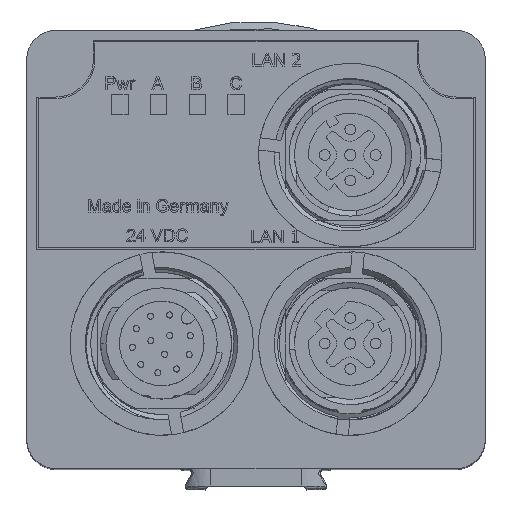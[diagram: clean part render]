
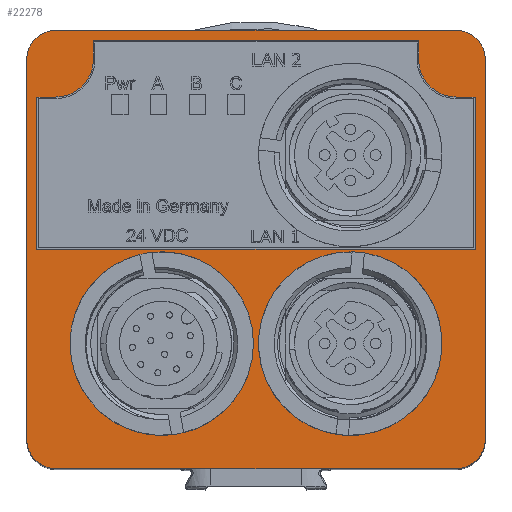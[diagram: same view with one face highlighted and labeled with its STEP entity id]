
A CAD part, top view. The second image highlights one B-rep face of the part: STEP entity #22278.
In plain terms, the highlighted planar face has unit normal (0, 0, 1).
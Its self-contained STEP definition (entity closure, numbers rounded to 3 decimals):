
#257=FACE_BOUND('',#6556,.T.);
#258=FACE_BOUND('',#6557,.T.);
#259=FACE_BOUND('',#6558,.T.);
#950=LINE('',#36806,#2822);
#1064=LINE('',#38646,#2936);
#1078=LINE('',#38712,#2950);
#1083=LINE('',#38873,#2955);
#1084=LINE('',#38878,#2956);
#1085=LINE('',#38883,#2957);
#1086=LINE('',#38885,#2958);
#1087=LINE('',#38889,#2959);
#1088=LINE('',#38891,#2960);
#1089=LINE('',#38893,#2961);
#1090=LINE('',#38897,#2962);
#1091=LINE('',#38898,#2963);
#2822=VECTOR('',#25256,10.);
#2936=VECTOR('',#25502,10.);
#2950=VECTOR('',#25526,10.);
#2955=VECTOR('',#25541,10.);
#2956=VECTOR('',#25546,10.);
#2957=VECTOR('',#25551,10.);
#2958=VECTOR('',#25552,10.);
#2959=VECTOR('',#25555,10.);
#2960=VECTOR('',#25556,10.);
#2961=VECTOR('',#25557,10.);
#2962=VECTOR('',#25560,10.);
#2963=VECTOR('',#25561,10.);
#4549=PLANE('',#23573);
#5349=FACE_OUTER_BOUND('',#6555,.T.);
#6555=EDGE_LOOP('',(#15864,#15865,#15866,#15867,#15868,#15869,#15870,#15871));
#6556=EDGE_LOOP('',(#15872));
#6557=EDGE_LOOP('',(#15873));
#6558=EDGE_LOOP('',(#15874,#15875,#15876,#15877,#15878,#15879,#15880,#15881,
#15882,#15883));
#7745=CIRCLE('',#23509,9.);
#7772=CIRCLE('',#23574,2.85);
#7773=CIRCLE('',#23575,2.85);
#7774=CIRCLE('',#23576,2.85);
#7775=CIRCLE('',#23577,2.85);
#7776=CIRCLE('',#23578,9.);
#7777=CIRCLE('',#23579,3.7);
#7778=CIRCLE('',#23580,3.7);
#9418=VERTEX_POINT('',#36803);
#9419=VERTEX_POINT('',#36805);
#9436=VERTEX_POINT('',#37058);
#9597=VERTEX_POINT('',#38643);
#9598=VERTEX_POINT('',#38645);
#9612=VERTEX_POINT('',#38710);
#9613=VERTEX_POINT('',#38711);
#9624=VERTEX_POINT('',#38870);
#9625=VERTEX_POINT('',#38872);
#9626=VERTEX_POINT('',#38875);
#9627=VERTEX_POINT('',#38877);
#9628=VERTEX_POINT('',#38880);
#9629=VERTEX_POINT('',#38882);
#9630=VERTEX_POINT('',#38884);
#9631=VERTEX_POINT('',#38886);
#9632=VERTEX_POINT('',#38888);
#9633=VERTEX_POINT('',#38890);
#9634=VERTEX_POINT('',#38892);
#9635=VERTEX_POINT('',#38894);
#9636=VERTEX_POINT('',#38896);
#11760=EDGE_CURVE('',#9419,#9418,#950,.T.);
#11788=EDGE_CURVE('',#9436,#9436,#7745,.T.);
#11994=EDGE_CURVE('',#9598,#9597,#1064,.T.);
#12013=EDGE_CURVE('',#9612,#9613,#1078,.T.);
#12030=EDGE_CURVE('',#9597,#9624,#7772,.T.);
#12031=EDGE_CURVE('',#9624,#9625,#1083,.T.);
#12032=EDGE_CURVE('',#9625,#9419,#7773,.T.);
#12033=EDGE_CURVE('',#9418,#9626,#7774,.T.);
#12034=EDGE_CURVE('',#9626,#9627,#1084,.T.);
#12035=EDGE_CURVE('',#9627,#9598,#7775,.T.);
#12036=EDGE_CURVE('',#9628,#9628,#7776,.T.);
#12037=EDGE_CURVE('',#9613,#9629,#1085,.T.);
#12038=EDGE_CURVE('',#9629,#9630,#1086,.T.);
#12039=EDGE_CURVE('',#9630,#9631,#7777,.T.);
#12040=EDGE_CURVE('',#9631,#9632,#1087,.T.);
#12041=EDGE_CURVE('',#9632,#9633,#1088,.T.);
#12042=EDGE_CURVE('',#9633,#9634,#1089,.T.);
#12043=EDGE_CURVE('',#9634,#9635,#7778,.T.);
#12044=EDGE_CURVE('',#9635,#9636,#1090,.T.);
#12045=EDGE_CURVE('',#9636,#9612,#1091,.T.);
#15864=ORIENTED_EDGE('',*,*,#11994,.T.);
#15865=ORIENTED_EDGE('',*,*,#12030,.T.);
#15866=ORIENTED_EDGE('',*,*,#12031,.T.);
#15867=ORIENTED_EDGE('',*,*,#12032,.T.);
#15868=ORIENTED_EDGE('',*,*,#11760,.T.);
#15869=ORIENTED_EDGE('',*,*,#12033,.T.);
#15870=ORIENTED_EDGE('',*,*,#12034,.T.);
#15871=ORIENTED_EDGE('',*,*,#12035,.T.);
#15872=ORIENTED_EDGE('',*,*,#12036,.T.);
#15873=ORIENTED_EDGE('',*,*,#11788,.T.);
#15874=ORIENTED_EDGE('',*,*,#12013,.T.);
#15875=ORIENTED_EDGE('',*,*,#12037,.T.);
#15876=ORIENTED_EDGE('',*,*,#12038,.T.);
#15877=ORIENTED_EDGE('',*,*,#12039,.T.);
#15878=ORIENTED_EDGE('',*,*,#12040,.T.);
#15879=ORIENTED_EDGE('',*,*,#12041,.T.);
#15880=ORIENTED_EDGE('',*,*,#12042,.T.);
#15881=ORIENTED_EDGE('',*,*,#12043,.T.);
#15882=ORIENTED_EDGE('',*,*,#12044,.T.);
#15883=ORIENTED_EDGE('',*,*,#12045,.T.);
#22278=ADVANCED_FACE('',(#5349,#257,#258,#259),#4549,.T.);
#23509=AXIS2_PLACEMENT_3D('',#37060,#25287,#25288);
#23573=AXIS2_PLACEMENT_3D('',#38869,#25537,#25538);
#23574=AXIS2_PLACEMENT_3D('',#38871,#25539,#25540);
#23575=AXIS2_PLACEMENT_3D('',#38874,#25542,#25543);
#23576=AXIS2_PLACEMENT_3D('',#38876,#25544,#25545);
#23577=AXIS2_PLACEMENT_3D('',#38879,#25547,#25548);
#23578=AXIS2_PLACEMENT_3D('',#38881,#25549,#25550);
#23579=AXIS2_PLACEMENT_3D('',#38887,#25553,#25554);
#23580=AXIS2_PLACEMENT_3D('',#38895,#25558,#25559);
#25256=DIRECTION('',(0.,-1.,0.));
#25287=DIRECTION('center_axis',(0.,0.,
-1.));
#25288=DIRECTION('ref_axis',(-1.,0.,0.));
#25502=DIRECTION('',(0.,1.,0.));
#25526=DIRECTION('',(-1.,0.,0.));
#25537=DIRECTION('center_axis',(0.,0.,
1.));
#25538=DIRECTION('ref_axis',(1.,0.,0.));
#25539=DIRECTION('center_axis',(0.,0.,
1.));
#25540=DIRECTION('ref_axis',(0.707,0.707,0.));
#25541=DIRECTION('',(-1.,0.,0.));
#25542=DIRECTION('center_axis',(0.,0.,
1.));
#25543=DIRECTION('ref_axis',(-0.707,0.707,0.));
#25544=DIRECTION('center_axis',(0.,0.,
1.));
#25545=DIRECTION('ref_axis',(-0.707,-0.707,0.));
#25546=DIRECTION('',(1.,0.,0.));
#25547=DIRECTION('center_axis',(0.,0.,
1.));
#25548=DIRECTION('ref_axis',(0.707,-0.707,0.));
#25549=DIRECTION('center_axis',(0.,0.,
-1.));
#25550=DIRECTION('ref_axis',(0.087,0.996,0.));
#25551=DIRECTION('',(0.,1.,0.));
#25552=DIRECTION('',(1.,0.,0.));
#25553=DIRECTION('center_axis',(0.,0.,
1.));
#25554=DIRECTION('ref_axis',(0.,1.,0.));
#25555=DIRECTION('',(0.,1.,0.));
#25556=DIRECTION('',(1.,0.,0.));
#25557=DIRECTION('',(0.,-1.,0.));
#25558=DIRECTION('center_axis',(0.,0.,
1.));
#25559=DIRECTION('ref_axis',(1.,0.,0.));
#25560=DIRECTION('',(1.,0.,0.));
#25561=DIRECTION('',(0.,-1.,0.));
#36803=CARTESIAN_POINT('',(-22.5,-18.65,71.125));
#36805=CARTESIAN_POINT('',(-22.5,18.65,71.125));
#36806=CARTESIAN_POINT('',(-22.5,10.75,71.125));
#37058=CARTESIAN_POINT('',(-10.813,-0.387,71.125));
#37060=CARTESIAN_POINT('Origin',(-9.25,-9.25,71.125));
#38643=CARTESIAN_POINT('',(22.5,18.65,71.125));
#38645=CARTESIAN_POINT('',(22.5,-18.65,71.125));
#38646=CARTESIAN_POINT('',(22.5,-10.75,71.125));
#38710=CARTESIAN_POINT('',(21.5,0.,71.125));
#38711=CARTESIAN_POINT('',(-21.5,0.,71.125));
#38712=CARTESIAN_POINT('',(11.75,0.,71.125));
#38869=CARTESIAN_POINT('Origin',(2.,0.,
71.125));
#38870=CARTESIAN_POINT('',(19.65,21.5,71.125));
#38871=CARTESIAN_POINT('Origin',(19.65,18.65,71.125));
#38872=CARTESIAN_POINT('',(-19.65,21.5,71.125));
#38873=CARTESIAN_POINT('',(14.25,21.5,71.125));
#38874=CARTESIAN_POINT('Origin',(-19.65,18.65,71.125));
#38875=CARTESIAN_POINT('',(-19.65,-21.5,71.125));
#38876=CARTESIAN_POINT('Origin',(-19.65,-18.65,71.125));
#38877=CARTESIAN_POINT('',(19.65,-21.5,71.125));
#38878=CARTESIAN_POINT('',(-10.25,-21.5,71.125));
#38879=CARTESIAN_POINT('Origin',(19.65,-18.65,71.125));
#38880=CARTESIAN_POINT('',(8.466,-18.216,71.125));
#38881=CARTESIAN_POINT('Origin',(9.25,-9.25,71.125));
#38882=CARTESIAN_POINT('',(-21.5,14.95,71.125));
#38883=CARTESIAN_POINT('',(-21.5,0.,71.125));
#38884=CARTESIAN_POINT('',(-19.65,14.95,71.125));
#38885=CARTESIAN_POINT('',(-9.75,14.95,71.125));
#38886=CARTESIAN_POINT('',(-15.95,18.65,71.125));
#38887=CARTESIAN_POINT('Origin',(-19.65,18.65,71.125));
#38888=CARTESIAN_POINT('',(-15.95,20.5,71.125));
#38889=CARTESIAN_POINT('',(-15.95,9.325,71.125));
#38890=CARTESIAN_POINT('',(15.95,20.5,71.125));
#38891=CARTESIAN_POINT('',(-6.975,20.5,71.125));
#38892=CARTESIAN_POINT('',(15.95,18.65,71.125));
#38893=CARTESIAN_POINT('',(15.95,10.25,71.125));
#38894=CARTESIAN_POINT('',(19.65,14.95,71.125));
#38895=CARTESIAN_POINT('Origin',(19.65,18.65,71.125));
#38896=CARTESIAN_POINT('',(21.5,14.95,71.125));
#38897=CARTESIAN_POINT('',(10.825,14.95,71.125));
#38898=CARTESIAN_POINT('',(21.5,7.475,71.125));
